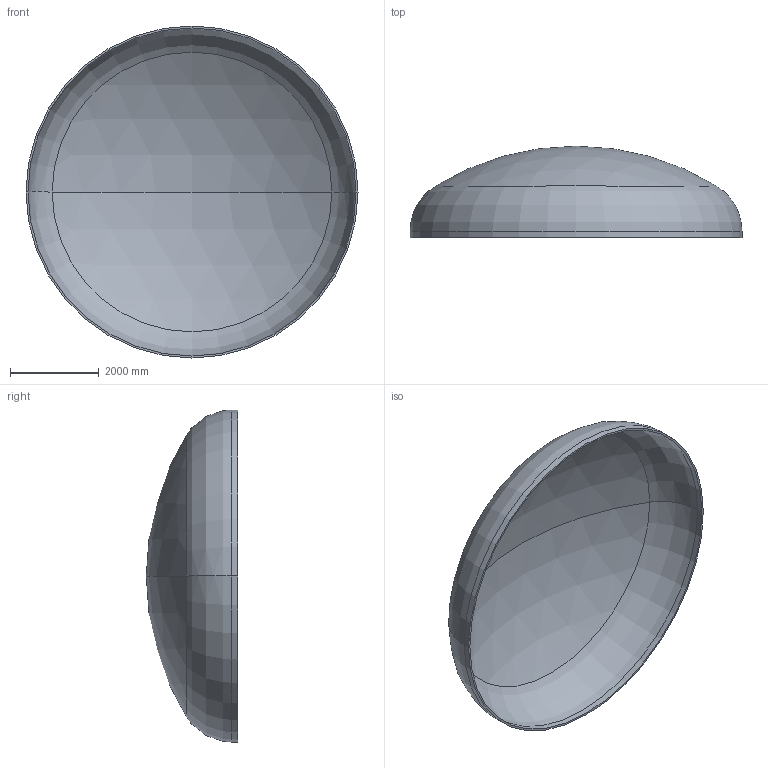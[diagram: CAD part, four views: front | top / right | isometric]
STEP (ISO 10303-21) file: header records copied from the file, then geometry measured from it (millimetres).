
FILE_DESCRIPTION (( 'STEP AP203' ), '1' );
FILE_NAME ('DIN 28013 Korbbogenform_-_Boden DIN 28013 - 7500 x 140 - I - s=44.step', '2016-07-04T10:54:07', ( '' ), ( '' ), 'SwSTEP 2.0', 'SolidWorks 2013', '' );
FILE_SCHEMA (( 'CONFIG_CONTROL_DESIGN' ));
Length unit declared in the file: millimetre
Products named in the file (1): DIN 28013 Korbbogenform_-_Boden DIN 28013 - 7500 x 140 - I - s=44
Bounding box: 7500 x 2064.97 x 7500 mm (x, y, z)
Volume: 2815772277.5 mm3; surface area: 129024297.2 mm2
Topology: 1 solids, 1 shells, 13 faces, 24 edges, 14 vertices
Faces by surface type: torus 4, cylinder 4, sphere 4, plane 1
Entity records: 407 total; most frequent: DIRECTION 72, CARTESIAN_POINT 52, ORIENTED_EDGE 48, AXIS2_PLACEMENT_3D 34, EDGE_CURVE 24, CIRCLE 20, EDGE_LOOP 14, VERTEX_POINT 14
